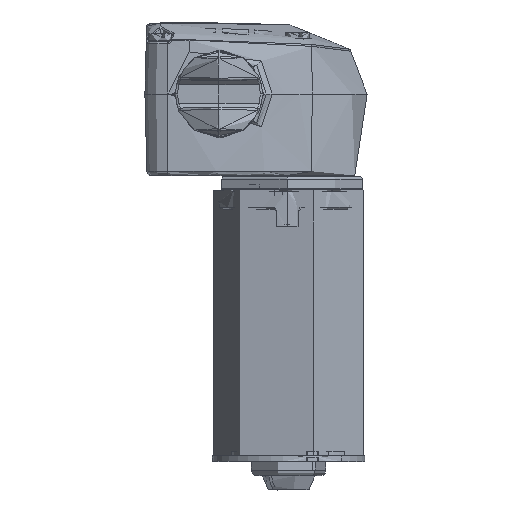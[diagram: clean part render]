
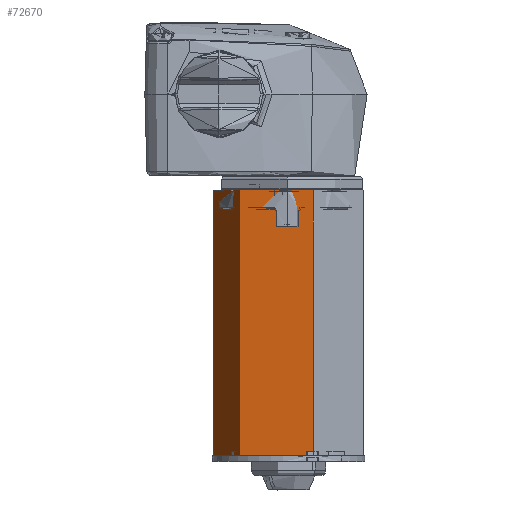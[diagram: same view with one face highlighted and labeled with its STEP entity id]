
A CAD part, top view. The second image highlights one B-rep face of the part: STEP entity #72670.
In plain terms, the highlighted cylindrical face has radius 17.5 mm (diameter 35 mm), a partial arc.
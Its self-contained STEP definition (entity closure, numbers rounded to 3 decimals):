
#1032 = CARTESIAN_POINT ( 'NONE',  ( -19.782, 15.878, 16.445 ) ) ;
#4198 = ORIENTED_EDGE ( 'NONE', *, *, #50106, .T. ) ;
#8428 = DIRECTION ( 'NONE',  ( 0., 1., 0. ) ) ;
#9246 = CIRCLE ( 'NONE', #27563, 17.5 ) ;
#12473 = DIRECTION ( 'NONE',  ( 0., 1., 0. ) ) ;
#14620 = CARTESIAN_POINT ( 'NONE',  ( -25.767, 15.878, 0. ) ) ;
#15653 = CIRCLE ( 'NONE', #36904, 17.5 ) ;
#15956 = EDGE_CURVE ( 'NONE', #102469, #93840, #15653, .T. ) ;
#16634 = AXIS2_PLACEMENT_3D ( 'NONE', #99444, #55510, #19763 ) ;
#16923 = VECTOR ( 'NONE', #112530, 1000. ) ;
#17111 = ORIENTED_EDGE ( 'NONE', *, *, #63905, .F. ) ;
#19763 = DIRECTION ( 'NONE',  ( -0.342, 0., -0.94 ) ) ;
#21010 = CARTESIAN_POINT ( 'NONE',  ( -19.782, -41.122, 16.445 ) ) ;
#22225 = CYLINDRICAL_SURFACE ( 'NONE', #16634, 17.5 ) ;
#22898 = CARTESIAN_POINT ( 'NONE',  ( -18.576, 17.878, 15.955 ) ) ;
#23523 = DIRECTION ( 'NONE',  ( -0.342, 0., -0.94 ) ) ;
#27395 = AXIS2_PLACEMENT_3D ( 'NONE', #14620, #76774, #23523 ) ;
#27563 = AXIS2_PLACEMENT_3D ( 'NONE', #81395, #28132, #90299 ) ;
#27771 = FACE_OUTER_BOUND ( 'NONE', #90685, .T. ) ;
#28132 = DIRECTION ( 'NONE',  ( 0., 1., 0. ) ) ;
#28715 = DIRECTION ( 'NONE',  ( 0., 1., 0. ) ) ;
#29393 = CARTESIAN_POINT ( 'NONE',  ( -18.576, -43.122, 15.955 ) ) ;
#32332 = DIRECTION ( 'NONE',  ( 0., -1., 0. ) ) ;
#32371 = CARTESIAN_POINT ( 'NONE',  ( -19.782, 17.878, 16.445 ) ) ;
#36120 = VERTEX_POINT ( 'NONE', #21010 ) ;
#36904 = AXIS2_PLACEMENT_3D ( 'NONE', #65717, #12473, #74635 ) ;
#39793 = AXIS2_PLACEMENT_3D ( 'NONE', #61671, #8428, #70585 ) ;
#40547 = LINE ( 'NONE', #32371, #16923 ) ;
#41193 = LINE ( 'NONE', #100245, #64826 ) ;
#41444 = CIRCLE ( 'NONE', #27395, 17.5 ) ;
#43127 = VERTEX_POINT ( 'NONE', #84768 ) ;
#47349 = EDGE_CURVE ( 'NONE', #48642, #99549, #41444, .T. ) ;
#48642 = VERTEX_POINT ( 'NONE', #51240 ) ;
#50106 = EDGE_CURVE ( 'NONE', #36120, #97278, #9246, .T. ) ;
#50992 = DIRECTION ( 'NONE',  ( 0., -1., 0. ) ) ;
#51240 = CARTESIAN_POINT ( 'NONE',  ( -18.576, 15.878, 15.955 ) ) ;
#55179 = ORIENTED_EDGE ( 'NONE', *, *, #47349, .T. ) ;
#55510 = DIRECTION ( 'NONE',  ( 0., -1., 0. ) ) ;
#58423 = ORIENTED_EDGE ( 'NONE', *, *, #15956, .T. ) ;
#61671 = CARTESIAN_POINT ( 'NONE',  ( -25.767, 17.878, 0. ) ) ;
#62029 = EDGE_CURVE ( 'NONE', #104092, #43127, #109032, .T. ) ;
#63797 = CARTESIAN_POINT ( 'NONE',  ( -31.752, -43.122, -16.445 ) ) ;
#63905 = EDGE_CURVE ( 'NONE', #43127, #93840, #64419, .T. ) ;
#64419 = LINE ( 'NONE', #86340, #108943 ) ;
#64826 = VECTOR ( 'NONE', #28715, 1000. ) ;
#65717 = CARTESIAN_POINT ( 'NONE',  ( -25.767, -43.122, 0. ) ) ;
#67718 = EDGE_CURVE ( 'NONE', #104092, #48642, #94429, .T. ) ;
#67756 = CARTESIAN_POINT ( 'NONE',  ( -18.576, 17.878, 15.955 ) ) ;
#70585 = DIRECTION ( 'NONE',  ( 0.342, 0., 0.94 ) ) ;
#71600 = ORIENTED_EDGE ( 'NONE', *, *, #62029, .F. ) ;
#72670 = ADVANCED_FACE ( 'NONE', ( #27771 ), #22225, .T. ) ;
#74635 = DIRECTION ( 'NONE',  ( 0.342, 0., 0.94 ) ) ;
#76774 = DIRECTION ( 'NONE',  ( 0., -1., 0. ) ) ;
#81395 = CARTESIAN_POINT ( 'NONE',  ( -25.767, -41.122, 0. ) ) ;
#84768 = CARTESIAN_POINT ( 'NONE',  ( -31.752, 17.878, -16.445 ) ) ;
#86340 = CARTESIAN_POINT ( 'NONE',  ( -31.752, 17.878, -16.445 ) ) ;
#89870 = EDGE_CURVE ( 'NONE', #102469, #97278, #41193, .T. ) ;
#90299 = DIRECTION ( 'NONE',  ( 0.342, 0., 0.94 ) ) ;
#90685 = EDGE_LOOP ( 'NONE', ( #55179, #115111, #4198, #115222, #58423, #17111, #71600, #101680 ) ) ;
#93840 = VERTEX_POINT ( 'NONE', #63797 ) ;
#94429 = LINE ( 'NONE', #67756, #115337 ) ;
#97278 = VERTEX_POINT ( 'NONE', #109186 ) ;
#99444 = CARTESIAN_POINT ( 'NONE',  ( -25.767, 17.878, 0. ) ) ;
#99549 = VERTEX_POINT ( 'NONE', #1032 ) ;
#100245 = CARTESIAN_POINT ( 'NONE',  ( -18.576, 17.878, 15.955 ) ) ;
#101680 = ORIENTED_EDGE ( 'NONE', *, *, #67718, .T. ) ;
#102469 = VERTEX_POINT ( 'NONE', #29393 ) ;
#104092 = VERTEX_POINT ( 'NONE', #22898 ) ;
#108943 = VECTOR ( 'NONE', #50992, 1000. ) ;
#109032 = CIRCLE ( 'NONE', #39793, 17.5 ) ;
#109186 = CARTESIAN_POINT ( 'NONE',  ( -18.576, -41.122, 15.955 ) ) ;
#111078 = EDGE_CURVE ( 'NONE', #99549, #36120, #40547, .T. ) ;
#112530 = DIRECTION ( 'NONE',  ( 0., -1., 0. ) ) ;
#115111 = ORIENTED_EDGE ( 'NONE', *, *, #111078, .T. ) ;
#115222 = ORIENTED_EDGE ( 'NONE', *, *, #89870, .F. ) ;
#115337 = VECTOR ( 'NONE', #32332, 1000. ) ;
